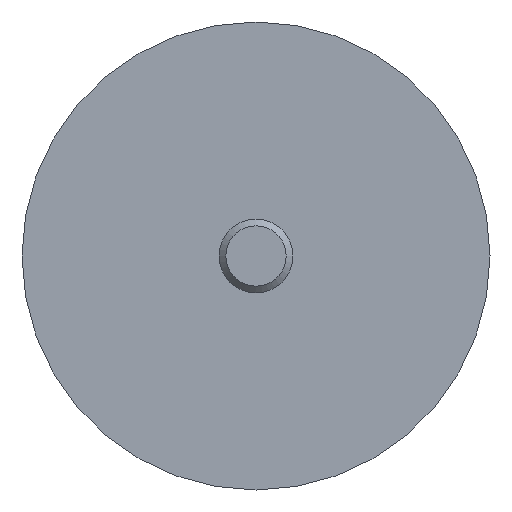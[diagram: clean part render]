
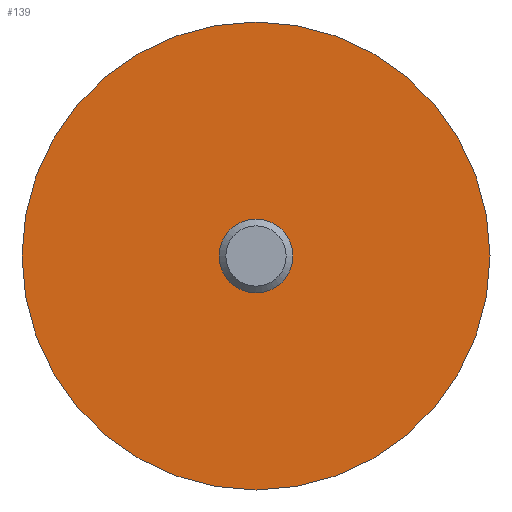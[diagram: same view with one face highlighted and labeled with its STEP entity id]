
A CAD part, front view. The second image highlights one B-rep face of the part: STEP entity #139.
In plain terms, the highlighted planar face has unit normal (0, -1, 0).
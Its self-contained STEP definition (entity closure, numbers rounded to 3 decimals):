
#2 = EDGE_CURVE ( 'NONE', #18, #18, #94, .T. ) ;
#8 = CARTESIAN_POINT ( 'NONE',  ( 0., -125., 0. ) ) ;
#18 = VERTEX_POINT ( 'NONE', #71 ) ;
#24 = AXIS2_PLACEMENT_3D ( 'NONE', #8, #40, #99 ) ;
#29 = DIRECTION ( 'NONE',  ( 0., 0., 1. ) ) ;
#30 = PLANE ( 'NONE',  #64 ) ;
#40 = DIRECTION ( 'NONE',  ( 0., 1., 0. ) ) ;
#48 = FACE_BOUND ( 'NONE', #162, .T. ) ;
#61 = EDGE_LOOP ( 'NONE', ( #160 ) ) ;
#64 = AXIS2_PLACEMENT_3D ( 'NONE', #124, #227, #153 ) ;
#71 = CARTESIAN_POINT ( 'NONE',  ( 0., -125., 3. ) ) ;
#94 = CIRCLE ( 'NONE', #24, 3. ) ;
#98 = AXIS2_PLACEMENT_3D ( 'NONE', #194, #192, #29 ) ;
#99 = DIRECTION ( 'NONE',  ( 0., 0., 1. ) ) ;
#110 = ORIENTED_EDGE ( 'NONE', *, *, #2, .T. ) ;
#112 = CARTESIAN_POINT ( 'NONE',  ( 0., -125., 19. ) ) ;
#124 = CARTESIAN_POINT ( 'NONE',  ( 0., -125., 0. ) ) ;
#128 = CIRCLE ( 'NONE', #98, 19. ) ;
#139 = ADVANCED_FACE ( 'NONE', ( #210, #48 ), #30, .F. ) ;
#146 = VERTEX_POINT ( 'NONE', #112 ) ;
#153 = DIRECTION ( 'NONE',  ( 0., 0., 1. ) ) ;
#160 = ORIENTED_EDGE ( 'NONE', *, *, #177, .F. ) ;
#162 = EDGE_LOOP ( 'NONE', ( #110 ) ) ;
#177 = EDGE_CURVE ( 'NONE', #146, #146, #128, .T. ) ;
#192 = DIRECTION ( 'NONE',  ( 0., 1., 0. ) ) ;
#194 = CARTESIAN_POINT ( 'NONE',  ( 0., -125., 0. ) ) ;
#210 = FACE_OUTER_BOUND ( 'NONE', #61, .T. ) ;
#227 = DIRECTION ( 'NONE',  ( 0., 1., 0. ) ) ;
